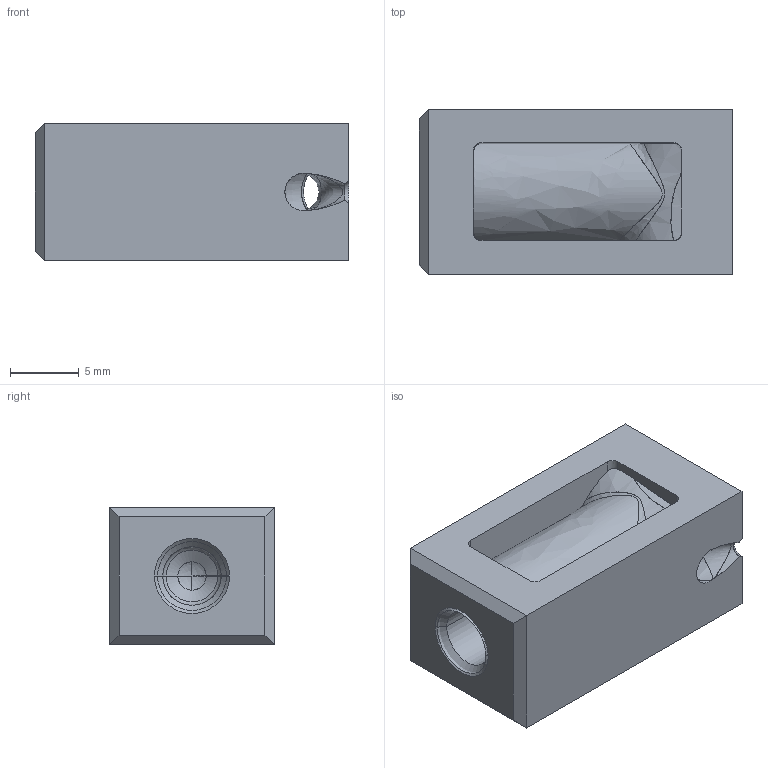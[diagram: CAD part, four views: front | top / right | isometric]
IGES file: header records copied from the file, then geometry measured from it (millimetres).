
Start section: START RECORD GO HERE.
Global section: file name: tgs12-12-s1.igs; native system: DASSAULT SYSTEMES CATIA V5 R20 - www.3ds.com; preprocessor: CATIA Version 5 Release 20 ; author: Utente; organization: NB04-ASUS; date: 20200418.083144; units: millimetre
Bounding box: 22.8 x 12 x 10 mm (x, y, z)
Surface area: 1914.7 mm2 (no closed solid volume)
Topology: 0 solids, 0 shells, 71 faces, 426 edges, 420 vertices
Faces by surface type: revolution 35, plane 22, bspline 14
